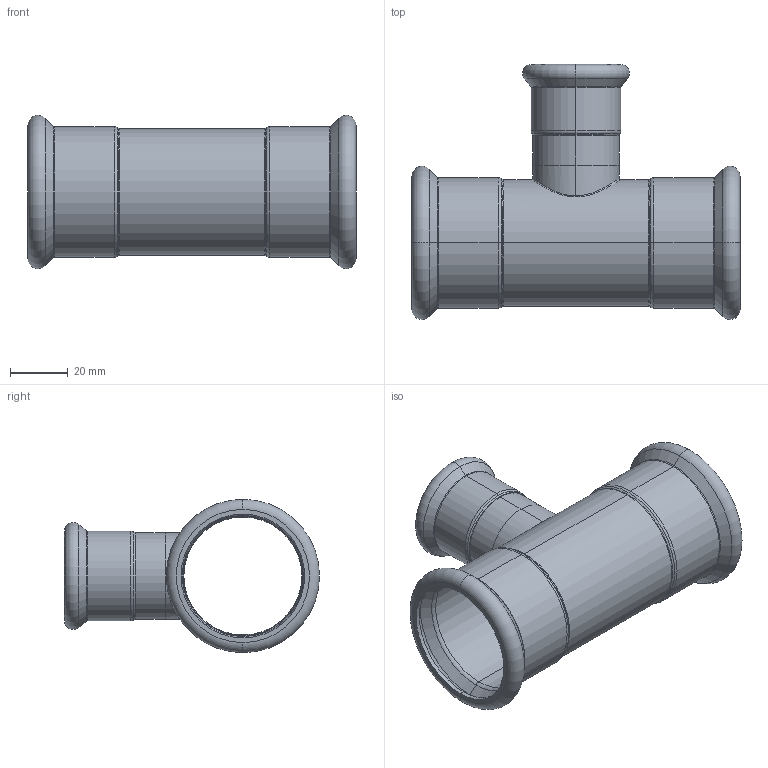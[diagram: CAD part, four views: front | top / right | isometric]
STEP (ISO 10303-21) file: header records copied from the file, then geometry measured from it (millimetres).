
FILE_DESCRIPTION (( 'STEP AP203' ), '1' );
FILE_NAME ('GDA5204.STEP', '2019-01-12T06:03:10', ( '' ), ( '' ), 'SwSTEP 2.0', 'SolidWorks 2015', '' );
FILE_SCHEMA (( 'CONFIG_CONTROL_DESIGN' ));
Length unit declared in the file: millimetre
Products named in the file (3): GDA5204; T-ｉ-01-28; T(R)-¢ñ-42¡Á28''
Assembly tree (2 placements, depth 2):
  GDA5204
    T(R)-¢ñ-42¡Á28''
    T-ｉ-01-28
Bounding box: 114 x 88.64 x 53.29 mm (x, y, z)
Volume: 30900.7 mm3; surface area: 42020.9 mm2
Topology: 2 solids, 2 shells, 114 faces, 234 edges, 128 vertices
Faces by surface type: torus 48, cylinder 30, cone 24, plane 8, bspline 4
Entity records: 4367 total; most frequent: CARTESIAN_POINT 1577, DIRECTION 620, ORIENTED_EDGE 468, AXIS2_PLACEMENT_3D 283, EDGE_CURVE 234, CIRCLE 168, VERTEX_POINT 128, EDGE_LOOP 124
